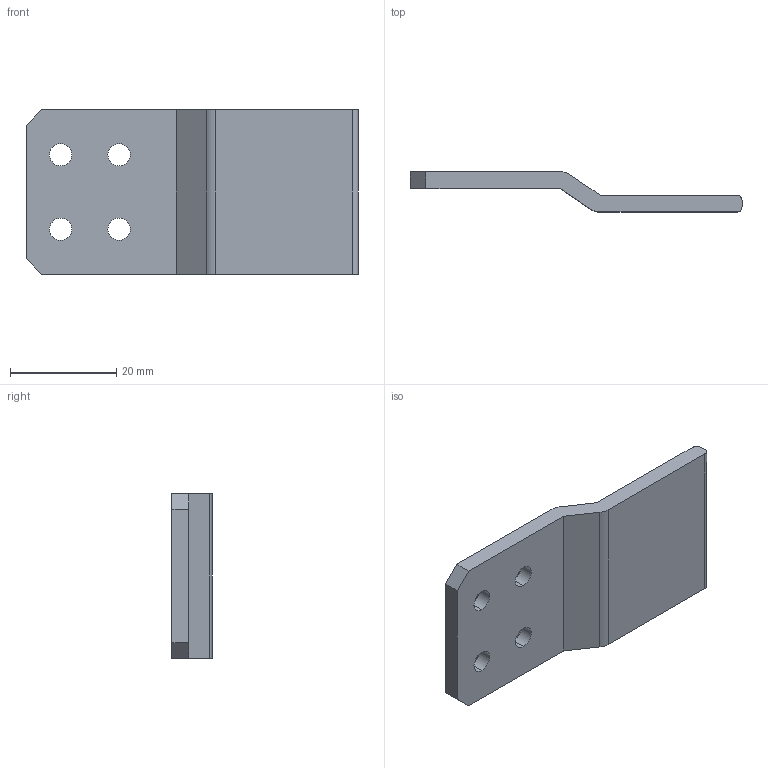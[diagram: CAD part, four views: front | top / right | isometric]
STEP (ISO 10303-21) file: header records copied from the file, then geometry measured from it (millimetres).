
FILE_DESCRIPTION (( 'STEP AP214' ), '1' );
FILE_NAME ('9192-BBC4B010.STEP', '2025-04-09T12:14:36', ( '' ), ( '' ), 'SwSTEP 2.0', 'SolidWorks 2011', '' );
FILE_SCHEMA (( 'AUTOMOTIVE_DESIGN' ));
Length unit declared in the file: millimetre
Products named in the file (1): 9192-BBC4B010
Bounding box: 62.4 x 7.57 x 31 mm (x, y, z)
Volume: 6034.8 mm3; surface area: 4535 mm2
Topology: 1 solids, 1 shells, 32 faces, 82 edges, 52 vertices
Faces by surface type: cylinder 12, plane 12, cone 8
Entity records: 1354 total; most frequent: DIRECTION 180, CARTESIAN_POINT 167, ORIENTED_EDGE 164, EDGE_CURVE 82, AXIS2_PLACEMENT_3D 65, VERTEX_POINT 52, VECTOR 50, LINE 50
